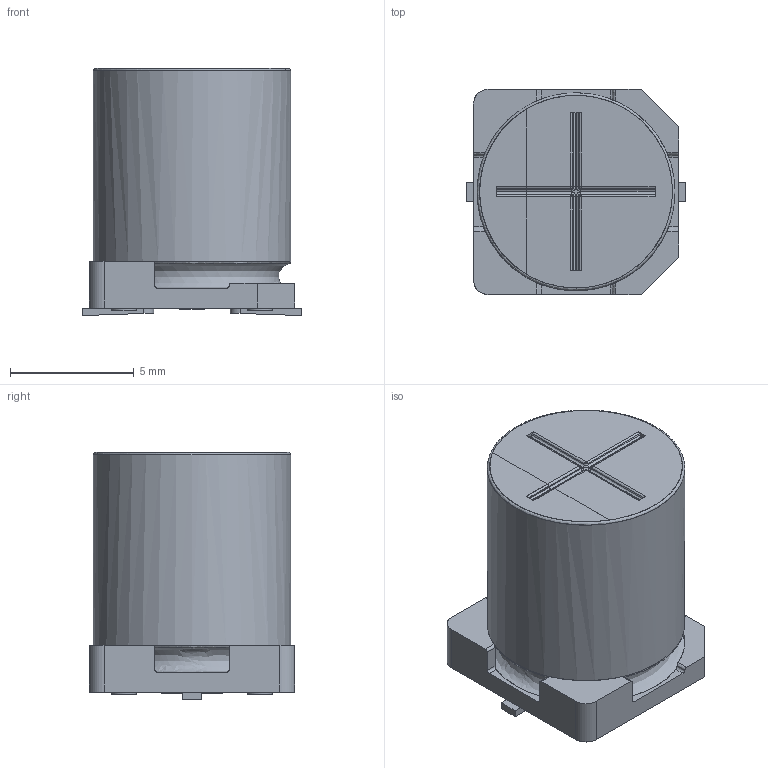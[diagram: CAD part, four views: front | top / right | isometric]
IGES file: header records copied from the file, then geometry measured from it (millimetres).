
Start section: JAMA-IS VERSION  1.0
Bounding box: 8.9 x 8.3 x 10 mm (x, y, z)
Surface area: 549.2 mm2 (no closed solid volume)
Topology: 0 solids, 0 shells, 132 faces, 1288 edges, 1270 vertices
Faces by surface type: bspline 132
